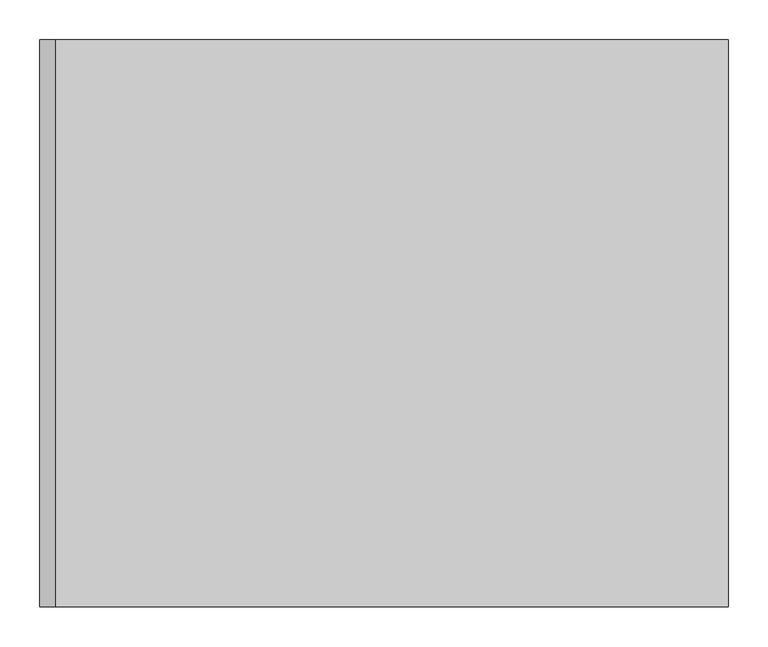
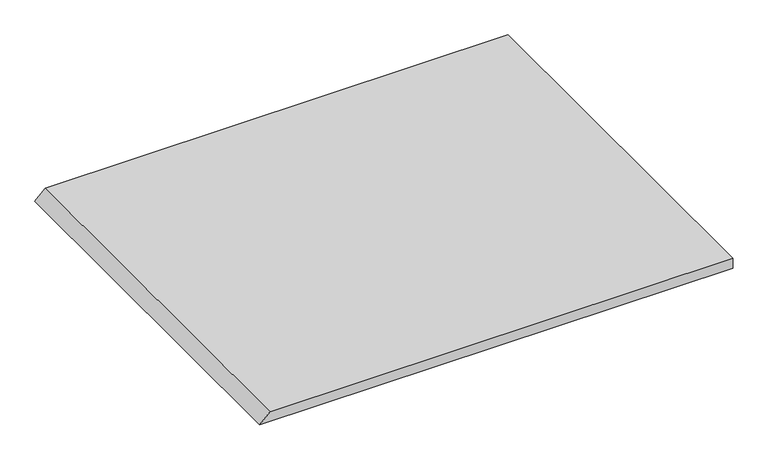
"""IFC4 building model written with IfcOpenShell, lengths in millimetres: proxy geometry, CAMBRIDGE^TABLE 2_4884 Rect-INSIDE SIDE PANEL 2."""

from ifc_helpers import new_model, si_unit, frame, origin, place, context, project, spatial, polyline, outline, extrude, source, transform, mapped, element, save


def generic_models_e59b2663(model_context):
    return source(origin(), model_context, "Body", "SweptSolid", [
        extrude(outline(polyline([(-768.35, 1498.6), (-768.35, 654.05), (-787.4, 635.0), (-787.4, 1498.6), (-768.35, 1498.6)])), frame((0.0, -711.2, 0.0), z_axis=(0.0, 1.0, 0.0), x_axis=(0.0, 0.0, 1.0)), (0.0, 0.0, 1.0), 711.2),
    ])


if __name__ == "__main__":
    model = new_model("IFC4")
    model_context = context("Model", 3, world=origin())
    ifc_project = project(units=[si_unit("LENGTHUNIT", "METRE", prefix="MILLI")], contexts=[model_context])
    site = spatial("IfcSite", under=ifc_project)
    building = spatial("IfcBuilding", under=site)
    placement = place(None, origin())
    generic_models_shape = generic_models_e59b2663(model_context)
    element("IfcBuildingElementProxy", 1, Name="CAMBRIDGE^TABLE 2_4884 Rect-INSIDE SIDE PANEL 2", ObjectType="CAMBRIDGE^TABLE 2_4884 Rect-INSIDE SIDE PANEL 2", at=placement, inside=building, context=model_context, shape_type="MappedRepresentation", body=[
        mapped(generic_models_shape, transform((0.0, 0.0, 0.0), x_axis=(1.0, 0.0, 0.0), y_axis=(0.0, 1.0, 0.0), z_axis=(0.0, 0.0, 1.0))),
    ])
    save(model, "model.ifc")
